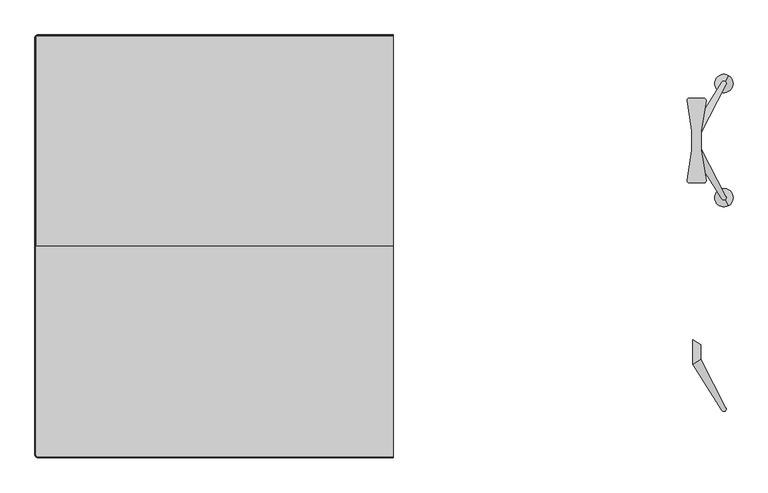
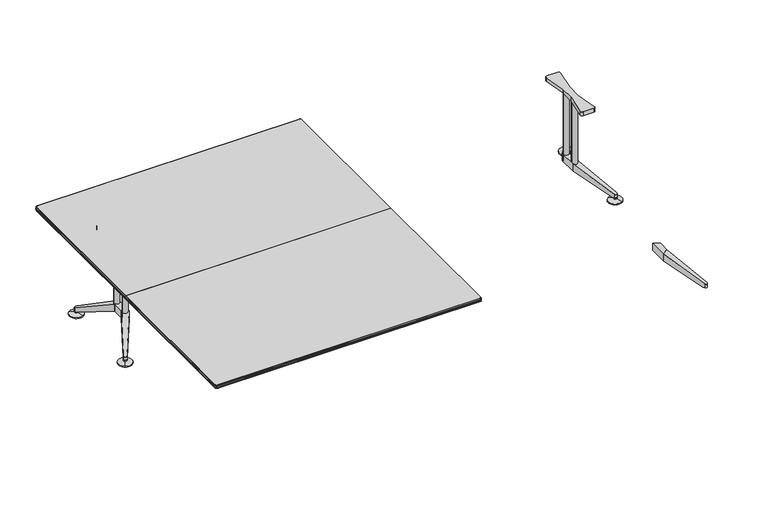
"""IFC4 building model written with IfcOpenShell, lengths in millimetres: furniture geometry, Furniture_Wilkhahn_620-46_Logon Table-Rectangle : Logon 620/46_3900L x 2300W x 730H."""

from ifc_helpers import new_model, si_unit, point, frame, frame_2d, origin, place, context, project, spatial, polyline, circle_curve, ellipse_curve, trimmed, segment, composite_curve, outline, extrude, source, transform, mapped, element, save
from ifc_brep_helpers import plane_surface, cylinder_surface, revolved_surface, advanced_brep


def furniture_e8c99cdd(model_context):
    return source(origin(), model_context, "Body", "SolidModel", [
        advanced_brep(
        [(0.0, -1120.2688717, 730.0), (0.0, -1121.7520946, 728.7237185), (0.0, -1122.5502006, 720.5693751), (0.0, -1122.5502006, 713.4306041), (0.0, -1121.7520946, 705.2762608), (0.0, -1120.2688717, 703.9999792), (0.0, 25.9511544, 703.9999792), (0.0, 25.9511544, 730.0), (-1946.2200262, 25.9511544, 703.9999792), (-1947.703249, 25.9511544, 705.2762608), (-1948.5013551, 25.9511544, 713.4306041), (-1948.5013551, 25.9511544, 720.5693751), (-1947.703249, 25.9511544, 728.7237185), (-1946.2200262, 25.9511544, 730.0), (-1935.0, -1120.2688717, 703.9999792), (-1946.2200262, -1109.0488456, 703.9999792), (-1935.0, -1122.5502006, 720.5693751), (-1935.0, -1122.5502006, 713.4306041), (-1946.2200262, -1109.0488456, 730.0), (-1935.0, -1120.2688717, 730.0), (-1948.5013551, -1109.0488456, 720.5693751), (-1948.5013551, -1109.0488456, 713.4306041), (-1935.0, -1121.7520946, 705.2762608), (-1935.0, -1121.7520946, 728.7237185), (-1947.703249, -1109.0488456, 705.2762608), (-1947.703249, -1109.0488456, 728.7237185)],
        [
            (0, 1, circle_curve(frame((0.0, -1120.2688717, 728.5), z_axis=(1.0, 0.0, 0.0), x_axis=(0.0, -1.0, 0.0)), 1.5)),
            (1, 2, circle_curve(frame((0.0, -1044.025371, 716.9999896), z_axis=(1.0, 0.0, 0.0), x_axis=(0.0, -1.0, 0.0)), 78.6059119)),
            (2, 3, circle_curve(frame((0.0, -1119.0488456, 716.9999896), z_axis=(1.0, 0.0, 0.0), x_axis=(0.0, -1.0, 0.0)), 5.0)),
            (3, 4, circle_curve(frame((0.0, -1044.025371, 716.9999896), z_axis=(1.0, 0.0, 0.0), x_axis=(0.0, -1.0, 0.0)), 78.6059119)),
            (4, 5, circle_curve(frame((0.0, -1120.2688717, 705.4999792), z_axis=(1.0, 0.0, 0.0), x_axis=(0.0, -1.0, 0.0)), 1.5)),
            (5, 6),
            (6, 7),
            (7, 0),
            (8, 9, circle_curve(frame((-1946.2200262, 25.9511544, 705.4999792), z_axis=(0.0, 1.0, 0.0), x_axis=(-1.0, 0.0, 0.0)), 1.5)),
            (9, 10, circle_curve(frame((-1869.9765254, 25.9511544, 716.9999896), z_axis=(0.0, 1.0, 0.0), x_axis=(-1.0, 0.0, 0.0)), 78.6059119)),
            (10, 11, circle_curve(frame((-1945.0, 25.9511544, 716.9999896), z_axis=(0.0, 1.0, 0.0), x_axis=(-1.0, 0.0, 0.0)), 5.0)),
            (11, 12, circle_curve(frame((-1869.9765254, 25.9511544, 716.9999896), z_axis=(0.0, 1.0, 0.0), x_axis=(-1.0, 0.0, 0.0)), 78.6059119)),
            (12, 13, circle_curve(frame((-1946.2200262, 25.9511544, 728.5), z_axis=(0.0, 1.0, 0.0), x_axis=(-1.0, 0.0, 0.0)), 1.5)),
            (13, 7),
            (6, 8),
            (5, 14),
            (14, 15, circle_curve(frame((-1935.0, -1109.0488456, 703.9999792), z_axis=(0.0, 0.0, -1.0), x_axis=(0.0, -1.0, 0.0)), 11.2200262)),
            (15, 8),
            (2, 16),
            (16, 17, circle_curve(frame((-1935.0, -1119.0488456, 716.9999896), z_axis=(1.0, 0.0, 0.0), x_axis=(0.0, -1.0, 0.0)), 5.0)),
            (17, 3),
            (13, 18),
            (18, 19, circle_curve(frame((-1935.0, -1109.0488456, 730.0), z_axis=(0.0, 0.0, 1.0), x_axis=(0.0, -1.0, 0.0)), 11.2200262)),
            (19, 0),
            (16, 20, circle_curve(frame((-1935.0, -1109.0488456, 720.5693751), z_axis=(0.0, 0.0, -1.0), x_axis=(0.0, -1.0, 0.0)), 13.5013551)),
            (20, 21, circle_curve(frame((-1945.0, -1109.0488456, 716.9999896), z_axis=(0.0, -1.0, 0.0), x_axis=(-1.0, 0.0, 0.0)), 5.0)),
            (21, 17, circle_curve(frame((-1935.0, -1109.0488456, 713.4306041), z_axis=(0.0, 0.0, 1.0), x_axis=(0.0, -1.0, 0.0)), 13.5013551)),
            (10, 21),
            (20, 11),
            (4, 22),
            (22, 14, circle_curve(frame((-1935.0, -1120.2688717, 705.4999792), z_axis=(1.0, 0.0, 0.0), x_axis=(0.0, -1.0, 0.0)), 1.5)),
            (17, 22, circle_curve(frame((-1935.0, -1044.025371, 716.9999896), z_axis=(1.0, 0.0, 0.0), x_axis=(0.0, -1.0, 0.0)), 78.6059119)),
            (1, 23),
            (23, 16, circle_curve(frame((-1935.0, -1044.025371, 716.9999896), z_axis=(1.0, 0.0, 0.0), x_axis=(0.0, -1.0, 0.0)), 78.6059119)),
            (19, 23, circle_curve(frame((-1935.0, -1120.2688717, 728.5), z_axis=(1.0, 0.0, 0.0), x_axis=(0.0, -1.0, 0.0)), 1.5)),
            (22, 24, circle_curve(frame((-1935.0, -1109.0488456, 705.2762608), z_axis=(0.0, 0.0, -1.0), x_axis=(0.0, -1.0, 0.0)), 12.703249)),
            (24, 15, circle_curve(frame((-1946.2200262, -1109.0488456, 705.4999792), z_axis=(0.0, -1.0, 0.0), x_axis=(-1.0, 0.0, 0.0)), 1.5)),
            (21, 24, circle_curve(frame((-1869.9765254, -1109.0488456, 716.9999896), z_axis=(0.0, -1.0, 0.0), x_axis=(-1.0, 0.0, 0.0)), 78.6059119)),
            (23, 25, circle_curve(frame((-1935.0, -1109.0488456, 728.7237185), z_axis=(0.0, 0.0, -1.0), x_axis=(0.0, -1.0, 0.0)), 12.703249)),
            (25, 20, circle_curve(frame((-1869.9765254, -1109.0488456, 716.9999896), z_axis=(0.0, -1.0, 0.0), x_axis=(-1.0, 0.0, 0.0)), 78.6059119)),
            (18, 25, circle_curve(frame((-1946.2200262, -1109.0488456, 728.5), z_axis=(0.0, -1.0, 0.0), x_axis=(-1.0, 0.0, 0.0)), 1.5)),
            (24, 9),
            (25, 12),
        ],
        [
            plane_surface(frame((0.0, -1124.0488456, 730.0), z_axis=(1.0, 0.0, 0.0), x_axis=(0.0, 0.0, 1.0))),
            plane_surface(frame((-1950.0, 25.9511544, 730.0), z_axis=(0.0, 1.0, 0.0), x_axis=(0.0, 0.0, 1.0))),
            plane_surface(frame((0.0, -1120.2688717, 703.9999792), z_axis=(0.0, 0.0, -1.0), x_axis=(-1.0, 0.0, 0.0))),
            cylinder_surface(frame((0.0, -1119.0488456, 716.9999896), z_axis=(1.0, 0.0, 0.0), x_axis=(0.0, -1.0, 0.0)), 5.0),
            plane_surface(frame((0.0, -1119.0488456, 730.0), z_axis=(0.0, 0.0, 1.0), x_axis=(-1.0, 0.0, 0.0))),
            revolved_surface(trimmed(ellipse_curve(frame((-1935.0, -1119.0488456, 716.9999896), z_axis=(1.0, 0.0, 0.0), x_axis=(0.0, -1.0, 0.0)), 5.0, 5.0), [point((-1935.0, -1122.5502006, 720.5693751))], [point((-1935.0, -1122.5502006, 713.4306041))], True, "CARTESIAN"), (-1935.0, -1109.0488456, 730.0), (0.0, 0.0, -1.0)),
            cylinder_surface(frame((-1945.0, -1109.0488456, 716.9999896), z_axis=(0.0, -1.0, 0.0), x_axis=(-1.0, 0.0, 0.0)), 5.0),
            cylinder_surface(frame((0.0, -1120.2688717, 705.4999792), z_axis=(1.0, 0.0, 0.0), x_axis=(0.0, -1.0, 0.0)), 1.5),
            cylinder_surface(frame((0.0, -1044.025371, 716.9999896), z_axis=(1.0, 0.0, 0.0), x_axis=(0.0, -1.0, 0.0)), 78.6059119),
            cylinder_surface(frame((0.0, -1120.2688717, 728.5), z_axis=(1.0, 0.0, 0.0), x_axis=(0.0, -1.0, 0.0)), 1.5),
            revolved_surface(trimmed(ellipse_curve(frame((-1935.0, -1120.2688717, 705.4999792), z_axis=(1.0, 0.0, 0.0), x_axis=(0.0, -1.0, 0.0)), 1.5, 1.5), [point((-1935.0, -1121.7520946, 705.2762608))], [point((-1935.0, -1120.2688717, 703.9999792))], True, "CARTESIAN"), (-1935.0, -1109.0488456, 730.0), (0.0, 0.0, -1.0)),
            revolved_surface(trimmed(ellipse_curve(frame((-1935.0, -1044.025371, 716.9999896), z_axis=(1.0, 0.0, 0.0), x_axis=(0.0, -1.0, 0.0)), 78.6059119, 78.6059119), [point((-1935.0, -1122.5502006, 713.4306041))], [point((-1935.0, -1121.7520946, 705.2762608))], True, "CARTESIAN"), (-1935.0, -1109.0488456, 730.0), (0.0, 0.0, -1.0)),
            revolved_surface(trimmed(ellipse_curve(frame((-1935.0, -1044.025371, 716.9999896), z_axis=(1.0, 0.0, 0.0), x_axis=(0.0, -1.0, 0.0)), 78.6059119, 78.6059119), [point((-1935.0, -1121.7520946, 728.7237185))], [point((-1935.0, -1122.5502006, 720.5693751))], True, "CARTESIAN"), (-1935.0, -1109.0488456, 730.0), (0.0, 0.0, -1.0)),
            revolved_surface(trimmed(ellipse_curve(frame((-1935.0, -1120.2688717, 728.5), z_axis=(1.0, 0.0, 0.0), x_axis=(0.0, -1.0, 0.0)), 1.5, 1.5), [point((-1935.0, -1120.2688717, 730.0))], [point((-1935.0, -1121.7520946, 728.7237185))], True, "CARTESIAN"), (-1935.0, -1109.0488456, 730.0), (0.0, 0.0, -1.0)),
            cylinder_surface(frame((-1946.2200262, -1109.0488456, 705.4999792), z_axis=(0.0, -1.0, 0.0), x_axis=(-1.0, 0.0, 0.0)), 1.5),
            cylinder_surface(frame((-1869.9765254, -1109.0488456, 716.9999896), z_axis=(0.0, -1.0, 0.0), x_axis=(-1.0, 0.0, 0.0)), 78.6059119),
            cylinder_surface(frame((-1946.2200262, -1109.0488456, 728.5), z_axis=(0.0, -1.0, 0.0), x_axis=(-1.0, 0.0, 0.0)), 1.5),
        ],
        [
            (0, [[1, 2, 3, 4, 5, 6, 7, 8]]),
            (1, [[9, 10, 11, 12, 13, 14, -7, 15]]),
            (2, [[-15, -6, 16, 17, 18]]),
            (3, [[-3, 19, 20, 21]]),
            (4, [[-8, -14, 22, 23, 24]]),
            (5, [[-20, 25, 26, 27]]),
            (6, [[-11, 28, -26, 29]]),
            (7, [[-5, 30, 31, -16]]),
            (8, [[-4, -21, 32, -30]]),
            (8, [[-2, 33, 34, -19]]),
            (9, [[-1, -24, 35, -33]]),
            (10, [[-17, -31, 36, 37]]),
            (11, [[-27, 38, -36, -32]]),
            (12, [[-25, -34, 39, 40]]),
            (13, [[-23, 41, -39, -35]]),
            (14, [[-9, -18, -37, 42]]),
            (15, [[-10, -42, -38, -28]]),
            (15, [[-12, -29, -40, 43]]),
            (16, [[-13, -43, -41, -22]]),
        ],
    ),
        advanced_brep(
        [(0.0, 1174.4525095, 720.5693751), (0.0, 1174.4525095, 713.4306041), (-1935.0, 1174.4525095, 713.4306041), (-1935.0, 1174.4525095, 720.5693751), (-1948.5013551, 1160.9511544, 713.4306041), (-1948.5013551, 1160.9511544, 720.5693751), (-1948.5013551, 25.9511544, 713.4306041), (-1948.5013551, 25.9511544, 720.5693751), (0.0, 1173.6544035, 705.2762608), (0.0, 1172.1711806, 703.9999792), (-1935.0, 1172.1711806, 703.9999792), (-1935.0, 1173.6544035, 705.2762608), (0.0, 1173.6544035, 728.7237185), (-1935.0, 1173.6544035, 728.7237185), (0.0, 1172.1711806, 730.0), (-1935.0, 1172.1711806, 730.0), (-1946.2200262, 1160.9511544, 703.9999792), (-1947.703249, 1160.9511544, 705.2762608), (-1947.703249, 1160.9511544, 728.7237185), (-1946.2200262, 1160.9511544, 730.0), (-1946.2200262, 25.9511544, 703.9999792), (-1947.703249, 25.9511544, 705.2762608), (-1947.703249, 25.9511544, 728.7237185), (-1946.2200262, 25.9511544, 730.0), (0.0, 25.9511544, 730.0), (0.0, 25.9511544, 703.9999792)],
        [
            (0, 1, circle_curve(frame((0.0, 1170.9511544, 716.9999896), z_axis=(-1.0, 0.0, 0.0), x_axis=(0.0, -1.0, 0.0)), 5.0)),
            (1, 2),
            (2, 3, circle_curve(frame((-1935.0, 1170.9511544, 716.9999896), z_axis=(1.0, 0.0, 0.0), x_axis=(0.0, -1.0, 0.0)), 5.0)),
            (3, 0),
            (2, 4, circle_curve(frame((-1935.0, 1160.9511544, 713.4306041), z_axis=(0.0, 0.0, 1.0), x_axis=(0.0, 1.0, 0.0)), 13.5013551)),
            (4, 5, circle_curve(frame((-1945.0, 1160.9511544, 716.9999896), z_axis=(0.0, 1.0, 0.0), x_axis=(1.0, 0.0, 0.0)), 5.0)),
            (5, 3, circle_curve(frame((-1935.0, 1160.9511544, 720.5693751), z_axis=(0.0, 0.0, -1.0), x_axis=(0.0, 1.0, 0.0)), 13.5013551)),
            (6, 7, circle_curve(frame((-1945.0, 25.9511544, 716.9999896), z_axis=(0.0, 1.0, 0.0), x_axis=(1.0, 0.0, 0.0)), 5.0)),
            (7, 5),
            (4, 6),
            (8, 9, circle_curve(frame((0.0, 1172.1711806, 705.4999792), z_axis=(-1.0, 0.0, 0.0), x_axis=(0.0, -1.0, 0.0)), 1.5)),
            (9, 10),
            (10, 11, circle_curve(frame((-1935.0, 1172.1711806, 705.4999792), z_axis=(1.0, 0.0, 0.0), x_axis=(0.0, -1.0, 0.0)), 1.5)),
            (11, 8),
            (1, 8, circle_curve(frame((0.0, 1095.9276799, 716.9999896), z_axis=(-1.0, 0.0, 0.0), x_axis=(0.0, -1.0, 0.0)), 78.6059119)),
            (11, 2, circle_curve(frame((-1935.0, 1095.9276799, 716.9999896), z_axis=(1.0, 0.0, 0.0), x_axis=(0.0, -1.0, 0.0)), 78.6059119)),
            (12, 0, circle_curve(frame((0.0, 1095.9276799, 716.9999896), z_axis=(-1.0, 0.0, 0.0), x_axis=(0.0, -1.0, 0.0)), 78.6059119)),
            (3, 13, circle_curve(frame((-1935.0, 1095.9276799, 716.9999896), z_axis=(1.0, 0.0, 0.0), x_axis=(0.0, -1.0, 0.0)), 78.6059119)),
            (13, 12),
            (14, 12, circle_curve(frame((0.0, 1172.1711806, 728.5), z_axis=(-1.0, 0.0, 0.0), x_axis=(0.0, -1.0, 0.0)), 1.5)),
            (13, 15, circle_curve(frame((-1935.0, 1172.1711806, 728.5), z_axis=(1.0, 0.0, 0.0), x_axis=(0.0, -1.0, 0.0)), 1.5)),
            (15, 14),
            (10, 16, circle_curve(frame((-1935.0, 1160.9511544, 703.9999792), z_axis=(0.0, 0.0, 1.0), x_axis=(0.0, 1.0, 0.0)), 11.2200262)),
            (16, 17, circle_curve(frame((-1946.2200262, 1160.9511544, 705.4999792), z_axis=(0.0, 1.0, 0.0), x_axis=(1.0, 0.0, 0.0)), 1.5)),
            (17, 11, circle_curve(frame((-1935.0, 1160.9511544, 705.2762608), z_axis=(0.0, 0.0, -1.0), x_axis=(0.0, 1.0, 0.0)), 12.703249)),
            (17, 4, circle_curve(frame((-1869.9765254, 1160.9511544, 716.9999896), z_axis=(0.0, 1.0, 0.0), x_axis=(1.0, 0.0, 0.0)), 78.6059119)),
            (5, 18, circle_curve(frame((-1869.9765254, 1160.9511544, 716.9999896), z_axis=(0.0, 1.0, 0.0), x_axis=(1.0, 0.0, 0.0)), 78.6059119)),
            (18, 13, circle_curve(frame((-1935.0, 1160.9511544, 728.7237185), z_axis=(0.0, 0.0, -1.0), x_axis=(0.0, 1.0, 0.0)), 12.703249)),
            (19, 15, circle_curve(frame((-1935.0, 1160.9511544, 730.0), z_axis=(0.0, 0.0, -1.0), x_axis=(0.0, 1.0, 0.0)), 11.2200262)),
            (18, 19, circle_curve(frame((-1946.2200262, 1160.9511544, 728.5), z_axis=(0.0, 1.0, 0.0), x_axis=(1.0, 0.0, 0.0)), 1.5)),
            (20, 21, circle_curve(frame((-1946.2200262, 25.9511544, 705.4999792), z_axis=(0.0, 1.0, 0.0), x_axis=(1.0, 0.0, 0.0)), 1.5)),
            (21, 17),
            (16, 20),
            (21, 6, circle_curve(frame((-1869.9765254, 25.9511544, 716.9999896), z_axis=(0.0, 1.0, 0.0), x_axis=(1.0, 0.0, 0.0)), 78.6059119)),
            (7, 22, circle_curve(frame((-1869.9765254, 25.9511544, 716.9999896), z_axis=(0.0, 1.0, 0.0), x_axis=(1.0, 0.0, 0.0)), 78.6059119)),
            (22, 18),
            (22, 23, circle_curve(frame((-1946.2200262, 25.9511544, 728.5), z_axis=(0.0, 1.0, 0.0), x_axis=(1.0, 0.0, 0.0)), 1.5)),
            (23, 19),
            (14, 24),
            (24, 25),
            (25, 9),
            (25, 20),
            (23, 24),
        ],
        [
            cylinder_surface(frame((0.0, 1170.9511544, 716.9999896), z_axis=(1.0, 0.0, 0.0), x_axis=(0.0, -1.0, 0.0)), 5.0),
            revolved_surface(trimmed(ellipse_curve(frame((-1935.0, 1170.9511544, 716.9999896), z_axis=(1.0, 0.0, 0.0), x_axis=(0.0, -1.0, 0.0)), 5.0, 5.0), [point((-1935.0, 1174.4525095, 713.4306041))], [point((-1935.0, 1174.4525095, 720.5693751))], True, "CARTESIAN"), (-1935.0, 1160.9511544, 730.0), (0.0, 0.0, 1.0)),
            cylinder_surface(frame((-1945.0, 1160.9511544, 716.9999896), z_axis=(0.0, 1.0, 0.0), x_axis=(1.0, 0.0, 0.0)), 5.0),
            cylinder_surface(frame((0.0, 1172.1711806, 705.4999792), z_axis=(1.0, 0.0, 0.0), x_axis=(0.0, -1.0, 0.0)), 1.5),
            cylinder_surface(frame((0.0, 1095.9276799, 716.9999896), z_axis=(1.0, 0.0, 0.0), x_axis=(0.0, -1.0, 0.0)), 78.6059119),
            cylinder_surface(frame((0.0, 1172.1711806, 728.5), z_axis=(1.0, 0.0, 0.0), x_axis=(0.0, -1.0, 0.0)), 1.5),
            revolved_surface(trimmed(ellipse_curve(frame((-1935.0, 1172.1711806, 705.4999792), z_axis=(1.0, 0.0, 0.0), x_axis=(0.0, -1.0, 0.0)), 1.5, 1.5), [point((-1935.0, 1172.1711806, 703.9999792))], [point((-1935.0, 1173.6544035, 705.2762608))], True, "CARTESIAN"), (-1935.0, 1160.9511544, 730.0), (0.0, 0.0, 1.0)),
            revolved_surface(trimmed(ellipse_curve(frame((-1935.0, 1095.9276799, 716.9999896), z_axis=(1.0, 0.0, 0.0), x_axis=(0.0, -1.0, 0.0)), 78.6059119, 78.6059119), [point((-1935.0, 1173.6544035, 705.2762608))], [point((-1935.0, 1174.4525095, 713.4306041))], True, "CARTESIAN"), (-1935.0, 1160.9511544, 730.0), (0.0, 0.0, 1.0)),
            revolved_surface(trimmed(ellipse_curve(frame((-1935.0, 1095.9276799, 716.9999896), z_axis=(1.0, 0.0, 0.0), x_axis=(0.0, -1.0, 0.0)), 78.6059119, 78.6059119), [point((-1935.0, 1174.4525095, 720.5693751))], [point((-1935.0, 1173.6544035, 728.7237185))], True, "CARTESIAN"), (-1935.0, 1160.9511544, 730.0), (0.0, 0.0, 1.0)),
            revolved_surface(trimmed(ellipse_curve(frame((-1935.0, 1172.1711806, 728.5), z_axis=(1.0, 0.0, 0.0), x_axis=(0.0, -1.0, 0.0)), 1.5, 1.5), [point((-1935.0, 1173.6544035, 728.7237185))], [point((-1935.0, 1172.1711806, 730.0))], True, "CARTESIAN"), (-1935.0, 1160.9511544, 730.0), (0.0, 0.0, 1.0)),
            cylinder_surface(frame((-1946.2200262, 1160.9511544, 705.4999792), z_axis=(0.0, 1.0, 0.0), x_axis=(1.0, 0.0, 0.0)), 1.5),
            cylinder_surface(frame((-1869.9765254, 1160.9511544, 716.9999896), z_axis=(0.0, 1.0, 0.0), x_axis=(1.0, 0.0, 0.0)), 78.6059119),
            cylinder_surface(frame((-1946.2200262, 1160.9511544, 728.5), z_axis=(0.0, 1.0, 0.0), x_axis=(1.0, 0.0, 0.0)), 1.5),
            plane_surface(frame((0.0, 1175.9511544, 730.0), z_axis=(1.0, 0.0, 0.0), x_axis=(0.0, 0.0, 1.0))),
            plane_surface(frame((0.0, 1170.9511544, 703.9999792), z_axis=(0.0, 0.0, -1.0), x_axis=(-1.0, 0.0, 0.0))),
            plane_surface(frame((0.0, 1172.1711806, 730.0), z_axis=(0.0, 0.0, 1.0), x_axis=(-1.0, 0.0, 0.0))),
            plane_surface(frame((-1950.0, 25.9511544, 730.0), z_axis=(0.0, -1.0, 0.0), x_axis=(0.0, 0.0, 1.0))),
        ],
        [
            (0, [[1, 2, 3, 4]]),
            (1, [[-3, 5, 6, 7]]),
            (2, [[8, 9, -6, 10]]),
            (3, [[11, 12, 13, 14]]),
            (4, [[15, -14, 16, -2]]),
            (4, [[17, -4, 18, 19]]),
            (5, [[20, -19, 21, 22]]),
            (6, [[23, 24, 25, -13]]),
            (7, [[-5, -16, -25, 26]]),
            (8, [[-7, 27, 28, -18]]),
            (9, [[29, -21, -28, 30]]),
            (10, [[31, 32, -24, 33]]),
            (11, [[34, -10, -26, -32]]),
            (11, [[35, 36, -27, -9]]),
            (12, [[37, 38, -30, -36]]),
            (13, [[-11, -15, -1, -17, -20, 39, 40, 41]]),
            (14, [[-41, 42, -33, -23, -12]]),
            (15, [[43, -39, -22, -29, -38]]),
            (16, [[-37, -35, -8, -34, -31, -42, -40, -43]]),
        ],
    ),
        extrude(outline(polyline([(1671.6506351, 641.4511544), (1671.6506351, 560.4511544), (1628.3493649, 535.4511544), (1628.3493649, 666.4511544), (1671.6506351, 641.4511544)])), frame((0.0, 0.0, 140.0), z_axis=(0.0, 0.0, 1.0), x_axis=(1.0, 0.0, 0.0)), (0.0, 0.0, 1.0), 55.0),
        advanced_brep(
        [(1628.3493649, 666.4511544, 195.0), (1671.6506351, 641.4511544, 195.0), (1809.8189769, 905.8365053, 56.1717347), (1805.0, 922.4190296, 50.6048844), (1788.2296242, 918.3011239, 56.1717347), (1803.7925387, 894.3049058, 27.0), (1781.2561852, 907.3162756, 27.0), (1788.2296242, 918.3011239, 27.0), (1805.0, 922.4190296, 27.0), (1809.8189769, 905.8365053, 27.0), (1671.6506351, 641.4511544, 140.0), (1628.3493649, 666.4511544, 140.0)],
        [
            (0, 1),
            (1, 2),
            (2, 3, ellipse_curve(frame((1798.762181, 911.6148102, 56.4159205), z_axis=(0.21111665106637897, 0.36566476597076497, 0.9064871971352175), x_axis=(0.4532435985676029, 0.7850409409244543, -0.42223330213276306)), 13.7626191, 12.475638)),
            (3, 4, ellipse_curve(frame((1798.762181, 911.6148102, 56.4159205), z_axis=(0.21111665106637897, 0.36566476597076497, 0.9064871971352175), x_axis=(0.4532435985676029, 0.7850409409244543, -0.42223330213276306)), 13.7626191, 12.475638)),
            (4, 0),
            (5, 6),
            (6, 7),
            (7, 8, circle_curve(frame((1798.762181, 911.6148102, 27.0), z_axis=(0.0, 0.0, -1.0), x_axis=(0.8660254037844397, -0.4999999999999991, 0.0)), 12.475638)),
            (8, 9, circle_curve(frame((1798.762181, 911.6148102, 27.0), z_axis=(0.0, 0.0, -1.0), x_axis=(0.8660254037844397, -0.4999999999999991, 0.0)), 12.475638)),
            (9, 5),
            (10, 11),
            (11, 6),
            (5, 10),
            (0, 11),
            (10, 1),
            (9, 2),
            (4, 7),
        ],
        [
            plane_surface(frame((1826.6506351, 909.9190296, 50.6048844), z_axis=(0.21111665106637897, 0.36566476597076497, 0.9064871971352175), x_axis=(-0.8660254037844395, 0.49999999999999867, 0.0))),
            plane_surface(frame((1814.1749971, 888.3105907, 27.0), z_axis=(0.0, 0.0, -1.0), x_axis=(-0.8660254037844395, 0.49999999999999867, 0.0))),
            plane_surface(frame((1671.6506351, 641.4511544, 140.0), z_axis=(-0.18426133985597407, -0.3191500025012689, -0.9296187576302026), x_axis=(-0.866025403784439, 0.4999999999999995, 0.0))),
            plane_surface(frame((1671.6506351, 641.4511544, 195.0), z_axis=(-0.4999999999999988, -0.8660254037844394, 0.0), x_axis=(-0.8660254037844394, 0.4999999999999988, 0.0))),
            plane_surface(frame((1809.8189769, 905.8365053, 195.0), z_axis=(0.8862709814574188, -0.4631670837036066, 0.0), x_axis=(0.0, 0.0, -1.0))),
            plane_surface(frame((1628.3493649, 666.4511544, 195.0), z_axis=(-0.8442499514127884, 0.5359496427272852, 0.0), x_axis=(0.0, 0.0, -1.0))),
            cylinder_surface(frame((1798.762181, 911.6148102, 0.0), z_axis=(0.0, 0.0, -1.0), x_axis=(0.8660254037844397, -0.4999999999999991, 0.0)), 12.475638),
        ],
        [
            (0, [[1, 2, 3, 4, 5]]),
            (1, [[6, 7, 8, 9, 10]]),
            (2, [[11, 12, -6, 13]]),
            (3, [[-1, 14, -11, 15]]),
            (4, [[16, -2, -15, -13, -10]]),
            (5, [[17, -7, -12, -14, -5]]),
            (6, [[-16, -9, -8, -17, -4, -3]]),
        ],
    ),
        advanced_brep(
        [(1798.762181, 290.2874987, 0.0), (1823.762181, 246.9862285, 0.0), (1773.762181, 333.5887689, 0.0), (1823.762181, 246.9862285, 6.0), (1773.762181, 333.5887689, 6.0), (1805.0, 279.4832793, 17.0), (1792.524362, 301.0917181, 17.0), (1805.0, 279.4832793, 27.0), (1792.524362, 301.0917181, 27.0), (1798.762181, 290.2874987, 27.0)],
        [
            (0, 1),
            (1, 2, circle_curve(frame((1798.762181, 290.2874987, 0.0), z_axis=(0.0, 0.0, -1.0), x_axis=(0.49999999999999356, -0.8660254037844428, 0.0)), 50.0)),
            (2, 0),
            (2, 1, circle_curve(frame((1798.762181, 290.2874987, 0.0), z_axis=(0.0, 0.0, -1.0), x_axis=(0.49999999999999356, -0.8660254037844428, 0.0)), 50.0)),
            (1, 3),
            (3, 4, circle_curve(frame((1798.762181, 290.2874987, 6.0), z_axis=(0.0, 0.0, -1.0), x_axis=(0.49999999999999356, -0.8660254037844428, 0.0)), 50.0)),
            (4, 2),
            (4, 3, circle_curve(frame((1798.762181, 290.2874987, 6.0), z_axis=(0.0, 0.0, -1.0), x_axis=(0.49999999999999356, -0.8660254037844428, 0.0)), 50.0)),
            (3, 5),
            (5, 6, circle_curve(frame((1798.762181, 290.2874987, 17.0), z_axis=(0.0, 0.0, -1.0), x_axis=(0.49999999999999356, -0.8660254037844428, 0.0)), 12.475638)),
            (6, 4),
            (6, 5, circle_curve(frame((1798.762181, 290.2874987, 17.0), z_axis=(0.0, 0.0, -1.0), x_axis=(0.49999999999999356, -0.8660254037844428, 0.0)), 12.475638)),
            (5, 7),
            (7, 8, circle_curve(frame((1798.762181, 290.2874987, 27.0), z_axis=(0.0, 0.0, -1.0), x_axis=(0.49999999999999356, -0.8660254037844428, 0.0)), 12.475638)),
            (8, 6),
            (8, 7, circle_curve(frame((1798.762181, 290.2874987, 27.0), z_axis=(0.0, 0.0, -1.0), x_axis=(0.49999999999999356, -0.8660254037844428, 0.0)), 12.475638)),
            (7, 9),
            (9, 8),
        ],
        [
            plane_surface(frame((1798.762181, 290.2874987, 0.0), z_axis=(0.0, 0.0, -1.0), x_axis=(0.49999999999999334, -0.8660254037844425, 0.0))),
            cylinder_surface(frame((1798.762181, 290.2874987, 27.0), z_axis=(0.0, 0.0, -1.0), x_axis=(0.49999999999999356, -0.8660254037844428, 0.0)), 50.0),
            revolved_surface(polyline([(1805.0, 279.4832793, 17.0), (1823.762181, 246.9862285, 6.0)]), (1798.762181, 290.2874987, 27.0), (0.0, 0.0, -1.0)),
            cylinder_surface(frame((1798.762181, 290.2874987, 27.0), z_axis=(0.0, 0.0, -1.0), x_axis=(0.49999999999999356, -0.8660254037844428, 0.0)), 12.475638),
            plane_surface(frame((1798.762181, 290.2874987, 27.0), z_axis=(0.0, 0.0, 1.0), x_axis=(0.49999999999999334, -0.8660254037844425, 0.0))),
        ],
        [
            (0, [[1, 2, 3]]),
            (0, [[-3, 4, -1]]),
            (1, [[-2, 5, 6, 7]]),
            (1, [[-4, -7, 8, -5]]),
            (2, [[-6, 9, 10, 11]]),
            (2, [[-8, -11, 12, -9]]),
            (3, [[-10, 13, 14, 15]]),
            (3, [[-12, -15, 16, -13]]),
            (4, [[-14, 17, 18]]),
            (4, [[-16, -18, -17]]),
        ],
    ),
        advanced_brep(
        [(1773.762181, 868.31354, 0.0), (1823.762181, 954.9160804, 0.0), (1798.762181, 911.6148102, 0.0), (1773.762181, 868.31354, 6.0), (1823.762181, 954.9160804, 6.0), (1792.524362, 900.8105907, 17.0), (1805.0, 922.4190296, 17.0), (1792.524362, 900.8105907, 27.0), (1805.0, 922.4190296, 27.0), (1798.762181, 911.6148102, 27.0)],
        [
            (0, 1, circle_curve(frame((1798.762181, 911.6148102, 0.0), z_axis=(0.0, 0.0, -1.0), x_axis=(0.4999999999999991, 0.8660254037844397, 0.0)), 50.0)),
            (1, 2),
            (2, 0),
            (1, 0, circle_curve(frame((1798.762181, 911.6148102, 0.0), z_axis=(0.0, 0.0, -1.0), x_axis=(0.4999999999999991, 0.8660254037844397, 0.0)), 50.0)),
            (3, 4, circle_curve(frame((1798.762181, 911.6148102, 6.0), z_axis=(0.0, 0.0, -1.0), x_axis=(0.4999999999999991, 0.8660254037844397, 0.0)), 50.0)),
            (4, 1),
            (0, 3),
            (4, 3, circle_curve(frame((1798.762181, 911.6148102, 6.0), z_axis=(0.0, 0.0, -1.0), x_axis=(0.4999999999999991, 0.8660254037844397, 0.0)), 50.0)),
            (5, 6, circle_curve(frame((1798.762181, 911.6148102, 17.0), z_axis=(0.0, 0.0, -1.0), x_axis=(0.4999999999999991, 0.8660254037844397, 0.0)), 12.475638)),
            (6, 4),
            (3, 5),
            (6, 5, circle_curve(frame((1798.762181, 911.6148102, 17.0), z_axis=(0.0, 0.0, -1.0), x_axis=(0.4999999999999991, 0.8660254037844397, 0.0)), 12.475638)),
            (7, 8, circle_curve(frame((1798.762181, 911.6148102, 27.0), z_axis=(0.0, 0.0, -1.0), x_axis=(0.4999999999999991, 0.8660254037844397, 0.0)), 12.475638)),
            (8, 6),
            (5, 7),
            (8, 7, circle_curve(frame((1798.762181, 911.6148102, 27.0), z_axis=(0.0, 0.0, -1.0), x_axis=(0.4999999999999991, 0.8660254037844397, 0.0)), 12.475638)),
            (9, 8),
            (7, 9),
        ],
        [
            plane_surface(frame((1798.762181, 911.6148102, 0.0), z_axis=(0.0, 0.0, -1.0), x_axis=(0.4999999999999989, 0.8660254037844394, 0.0))),
            cylinder_surface(frame((1798.762181, 911.6148102, 27.0), z_axis=(0.0, 0.0, 1.0), x_axis=(0.4999999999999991, 0.8660254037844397, 0.0)), 50.0),
            revolved_surface(polyline([(1823.762181, 954.9160804, 6.0), (1805.0, 922.4190296, 17.0)]), (1798.762181, 911.6148102, 27.0), (0.0, 0.0, 1.0)),
            cylinder_surface(frame((1798.762181, 911.6148102, 27.0), z_axis=(0.0, 0.0, 1.0), x_axis=(0.4999999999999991, 0.8660254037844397, 0.0)), 12.475638),
            plane_surface(frame((1798.762181, 911.6148102, 27.0), z_axis=(0.0, 0.0, 1.0), x_axis=(0.4999999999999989, 0.8660254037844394, 0.0))),
        ],
        [
            (0, [[1, 2, 3]]),
            (0, [[4, -3, -2]]),
            (1, [[5, 6, -1, 7]]),
            (1, [[8, -7, -4, -6]]),
            (2, [[9, 10, -5, 11]]),
            (2, [[12, -11, -8, -10]]),
            (3, [[13, 14, -9, 15]]),
            (3, [[16, -15, -12, -14]]),
            (4, [[17, -13, 18]]),
            (4, [[-18, -16, -17]]),
        ],
    ),
        extrude(outline(composite_curve([segment(polyline([(1675.0, 547.9511544), (1701.7160071, 384.8913867)]), True, "CONTINUOUS"), segment(trimmed(circle_curve(frame_2d((1689.8739001, 382.9511544)), 12.0), [point((1701.7160071, 384.8913867))], [point((1689.8739001, 370.9511544))], False, "CARTESIAN"), True, "CONTINUOUS"), segment(polyline([(1689.8739001, 370.9511544), (1610.1260999, 370.9511544)]), True, "CONTINUOUS"), segment(trimmed(circle_curve(frame_2d((1610.1260999, 382.9511544)), 12.0), [point((1610.1260999, 370.9511544))], [point((1598.2839929, 384.8913867))], False, "CARTESIAN"), True, "CONTINUOUS"), segment(polyline([(1598.2839929, 384.8913867), (1625.0, 547.9511544), (1625.0, 653.9511544), (1598.2839929, 817.0109222)]), True, "CONTINUOUS"), segment(trimmed(circle_curve(frame_2d((1610.1260999, 818.9511544)), 12.0), [point((1598.2839929, 817.0109222))], [point((1610.1260999, 830.9511544))], False, "CARTESIAN"), True, "CONTINUOUS"), segment(polyline([(1610.1260999, 830.9511544), (1689.8739001, 830.9511544)]), True, "CONTINUOUS"), segment(trimmed(circle_curve(frame_2d((1689.8739001, 818.9511544)), 12.0), [point((1689.8739001, 830.9511544))], [point((1701.7160071, 817.0109222))], False, "CARTESIAN"), True, "CONTINUOUS"), segment(polyline([(1701.7160071, 817.0109222), (1675.0, 653.9511544), (1675.0, 547.9511544)]), True, "CONTINUOUS")], self_intersect=False)), frame((0.0, 0.0, 675.0), z_axis=(0.0, 0.0, 1.0), x_axis=(1.0, 0.0, 0.0)), (0.0, 0.0, 1.0), 29.0),
        advanced_brep(
        [(1809.8189769, 296.0658036, 56.1717347), (1809.8189769, 296.0658036, 27.0), (1803.7925387, 307.597403, 27.0), (1671.6506351, 560.4511544, 140.0), (1671.6506351, 560.4511544, 195.0), (1788.2296242, 283.601185, 27.0), (1788.2296242, 283.601185, 56.1717347), (1628.3493649, 535.4511544, 195.0), (1628.3493649, 535.4511544, 140.0), (1781.2561852, 294.5860333, 27.0), (1805.0, 279.4832793, 50.6048844), (1805.0, 279.4832793, 27.0)],
        [
            (0, 1),
            (1, 2),
            (2, 3),
            (3, 4),
            (4, 0),
            (5, 6),
            (6, 7),
            (7, 8),
            (8, 9),
            (9, 5),
            (4, 7),
            (6, 10, ellipse_curve(frame((1798.762181, 290.2874987, 56.4159205), z_axis=(0.21111665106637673, -0.36566476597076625, 0.9064871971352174), x_axis=(0.453243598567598, -0.785040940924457, -0.4222333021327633)), 13.7626191, 12.475638)),
            (10, 0, ellipse_curve(frame((1798.762181, 290.2874987, 56.4159205), z_axis=(0.21111665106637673, -0.36566476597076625, 0.9064871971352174), x_axis=(0.453243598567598, -0.785040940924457, -0.4222333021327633)), 13.7626191, 12.475638)),
            (9, 2),
            (1, 11, circle_curve(frame((1798.762181, 290.2874987, 27.0), z_axis=(0.0, 0.0, -1.0), x_axis=(0.8660254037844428, 0.49999999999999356, 0.0)), 12.475638)),
            (11, 5, circle_curve(frame((1798.762181, 290.2874987, 27.0), z_axis=(0.0, 0.0, -1.0), x_axis=(0.8660254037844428, 0.49999999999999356, 0.0)), 12.475638)),
            (8, 3),
        ],
        [
            plane_surface(frame((1671.6506351, 560.4511544, 195.0), z_axis=(0.8862709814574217, 0.46316708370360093, 0.0), x_axis=(0.0, 0.0, -1.0))),
            plane_surface(frame((1788.2296242, 283.601185, 195.0), z_axis=(-0.844249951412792, -0.5359496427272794, 0.0), x_axis=(0.0, 0.0, -1.0))),
            plane_surface(frame((1671.6506351, 560.4511544, 195.0), z_axis=(0.21111665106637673, -0.36566476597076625, 0.9064871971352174), x_axis=(-0.8660254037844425, -0.49999999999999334, 0.0))),
            plane_surface(frame((1826.6506351, 291.9832793, 27.0), z_axis=(0.0, 0.0, -1.0), x_axis=(-0.8660254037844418, -0.4999999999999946, 0.0))),
            plane_surface(frame((1814.1749971, 313.5917181, 27.0), z_axis=(-0.1842613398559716, 0.3191500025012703, -0.9296187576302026), x_axis=(-0.8660254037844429, -0.49999999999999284, 0.0))),
            cylinder_surface(frame((1798.762181, 290.2874987, 0.0), z_axis=(0.0, 0.0, -1.0), x_axis=(0.8660254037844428, 0.49999999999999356, 0.0)), 12.475638),
            plane_surface(frame((1671.6506351, 560.4511544, 140.0), z_axis=(-0.4999999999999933, 0.8660254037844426, 0.0), x_axis=(-0.8660254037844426, -0.4999999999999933, 0.0))),
        ],
        [
            (0, [[1, 2, 3, 4, 5]]),
            (1, [[6, 7, 8, 9, 10]]),
            (2, [[11, -7, 12, 13, -5]]),
            (3, [[14, -2, 15, 16, -10]]),
            (4, [[17, -3, -14, -9]]),
            (5, [[-6, -16, -15, -1, -13, -12]]),
            (6, [[-11, -4, -17, -8]]),
        ],
    ),
        extrude(outline(composite_curve([segment(trimmed(circle_curve(frame_2d((1650.0, 547.9511544)), 20.0), [point((1630.0, 547.9511544))], [point((1670.0, 547.9511544))], False, "CARTESIAN"), True, "CONTINUOUS"), segment(trimmed(circle_curve(frame_2d((1650.0, 547.9511544)), 20.0), [point((1670.0, 547.9511544))], [point((1630.0, 547.9511544))], False, "CARTESIAN"), True, "CONTINUOUS")], self_intersect=False)), frame((0.0, 0.0, 140.0), z_axis=(0.0, 0.0, 1.0), x_axis=(1.0, 0.0, 0.0)), (0.0, 0.0, 1.0), 535.0),
        extrude(outline(composite_curve([segment(trimmed(circle_curve(frame_2d((1650.0, 653.9511544)), 20.0), [point((1630.0, 653.9511544))], [point((1670.0, 653.9511544))], False, "CARTESIAN"), True, "CONTINUOUS"), segment(trimmed(circle_curve(frame_2d((1650.0, 653.9511544)), 20.0), [point((1670.0, 653.9511544))], [point((1630.0, 653.9511544))], False, "CARTESIAN"), True, "CONTINUOUS")], self_intersect=False)), frame((0.0, 0.0, 140.0), z_axis=(0.0, 0.0, 1.0), x_axis=(1.0, 0.0, 0.0)), (0.0, 0.0, 1.0), 535.0),
        extrude(outline(polyline([(-1671.6506351, 641.4511544), (-1628.3493649, 666.4511544), (-1628.3493649, 535.4511544), (-1671.6506351, 560.4511544), (-1671.6506351, 641.4511544)])), frame((0.0, 0.0, 140.0), z_axis=(0.0, 0.0, 1.0), x_axis=(1.0, 0.0, 0.0)), (0.0, 0.0, 1.0), 55.0),
        advanced_brep(
        [(-1628.3493649, 666.4511544, 195.0), (-1788.2296242, 918.3011239, 56.1717347), (-1805.0, 922.4190296, 50.6048844), (-1809.8189769, 905.8365053, 56.1717347), (-1671.6506351, 641.4511544, 195.0), (-1803.7925387, 894.3049058, 27.0), (-1809.8189769, 905.8365053, 27.0), (-1805.0, 922.4190296, 27.0), (-1788.2296242, 918.3011239, 27.0), (-1781.2561852, 907.3162756, 27.0), (-1671.6506351, 641.4511544, 140.0), (-1628.3493649, 666.4511544, 140.0)],
        [
            (0, 1),
            (1, 2, ellipse_curve(frame((-1798.762181, 911.6148102, 56.4159205), z_axis=(-0.21111665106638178, 0.36566476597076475, 0.906487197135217), x_axis=(-0.45324359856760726, 0.7850409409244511, -0.4222333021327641)), 13.7626191, 12.475638)),
            (2, 3, ellipse_curve(frame((-1798.762181, 911.6148102, 56.4159205), z_axis=(-0.21111665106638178, 0.36566476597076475, 0.906487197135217), x_axis=(-0.45324359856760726, 0.7850409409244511, -0.4222333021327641)), 13.7626191, 12.475638)),
            (3, 4),
            (4, 0),
            (5, 6),
            (6, 7, circle_curve(frame((-1798.762181, 911.6148102, 27.0), z_axis=(0.0, 0.0, -1.0), x_axis=(-0.8660254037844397, -0.4999999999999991, 0.0)), 12.475638)),
            (7, 8, circle_curve(frame((-1798.762181, 911.6148102, 27.0), z_axis=(0.0, 0.0, -1.0), x_axis=(-0.8660254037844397, -0.4999999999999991, 0.0)), 12.475638)),
            (8, 9),
            (9, 5),
            (10, 5),
            (9, 11),
            (11, 10),
            (4, 10),
            (11, 0),
            (3, 6),
            (8, 1),
        ],
        [
            plane_surface(frame((-1826.6506351, 909.9190296, 50.6048844), z_axis=(-0.21111665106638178, 0.36566476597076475, 0.906487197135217), x_axis=(0.8660254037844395, 0.49999999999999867, 0.0))),
            plane_surface(frame((-1814.1749971, 888.3105907, 27.0), z_axis=(0.0, 0.0, -1.0), x_axis=(0.8660254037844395, 0.49999999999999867, 0.0))),
            plane_surface(frame((-1671.6506351, 641.4511544, 140.0), z_axis=(0.18426133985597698, -0.3191500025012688, -0.9296187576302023), x_axis=(0.866025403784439, 0.4999999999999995, 0.0))),
            plane_surface(frame((-1671.6506351, 641.4511544, 195.0), z_axis=(0.4999999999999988, -0.8660254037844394, 0.0), x_axis=(0.8660254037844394, 0.4999999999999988, 0.0))),
            plane_surface(frame((-1809.8189769, 905.8365053, 195.0), z_axis=(-0.8862709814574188, -0.4631670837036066, 0.0), x_axis=(0.0, 0.0, -1.0))),
            plane_surface(frame((-1628.3493649, 666.4511544, 195.0), z_axis=(0.8442499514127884, 0.5359496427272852, 0.0), x_axis=(0.0, 0.0, -1.0))),
            cylinder_surface(frame((-1798.762181, 911.6148102, 0.0), z_axis=(0.0, 0.0, -1.0), x_axis=(-0.8660254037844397, -0.4999999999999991, 0.0)), 12.475638),
        ],
        [
            (0, [[1, 2, 3, 4, 5]]),
            (1, [[6, 7, 8, 9, 10]]),
            (2, [[11, -10, 12, 13]]),
            (3, [[14, -13, 15, -5]]),
            (4, [[-6, -11, -14, -4, 16]]),
            (5, [[-1, -15, -12, -9, 17]]),
            (6, [[-3, -2, -17, -8, -7, -16]]),
        ],
    ),
        advanced_brep(
        [(-1798.762181, 290.2874987, 0.0), (-1773.762181, 333.5887689, 0.0), (-1823.762181, 246.9862285, 0.0), (-1773.762181, 333.5887689, 6.0), (-1823.762181, 246.9862285, 6.0), (-1792.524362, 301.0917181, 17.0), (-1805.0, 279.4832793, 17.0), (-1792.524362, 301.0917181, 27.0), (-1805.0, 279.4832793, 27.0), (-1798.762181, 290.2874987, 27.0)],
        [
            (0, 1),
            (1, 2, circle_curve(frame((-1798.762181, 290.2874987, 0.0), z_axis=(0.0, 0.0, -1.0), x_axis=(-0.49999999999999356, -0.8660254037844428, 0.0)), 50.0)),
            (2, 0),
            (2, 1, circle_curve(frame((-1798.762181, 290.2874987, 0.0), z_axis=(0.0, 0.0, -1.0), x_axis=(-0.49999999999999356, -0.8660254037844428, 0.0)), 50.0)),
            (1, 3),
            (3, 4, circle_curve(frame((-1798.762181, 290.2874987, 6.0), z_axis=(0.0, 0.0, -1.0), x_axis=(-0.49999999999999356, -0.8660254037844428, 0.0)), 50.0)),
            (4, 2),
            (4, 3, circle_curve(frame((-1798.762181, 290.2874987, 6.0), z_axis=(0.0, 0.0, -1.0), x_axis=(-0.49999999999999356, -0.8660254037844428, 0.0)), 50.0)),
            (3, 5),
            (5, 6, circle_curve(frame((-1798.762181, 290.2874987, 17.0), z_axis=(0.0, 0.0, -1.0), x_axis=(-0.49999999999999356, -0.8660254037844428, 0.0)), 12.475638)),
            (6, 4),
            (6, 5, circle_curve(frame((-1798.762181, 290.2874987, 17.0), z_axis=(0.0, 0.0, -1.0), x_axis=(-0.49999999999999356, -0.8660254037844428, 0.0)), 12.475638)),
            (5, 7),
            (7, 8, circle_curve(frame((-1798.762181, 290.2874987, 27.0), z_axis=(0.0, 0.0, -1.0), x_axis=(-0.49999999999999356, -0.8660254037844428, 0.0)), 12.475638)),
            (8, 6),
            (8, 7, circle_curve(frame((-1798.762181, 290.2874987, 27.0), z_axis=(0.0, 0.0, -1.0), x_axis=(-0.49999999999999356, -0.8660254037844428, 0.0)), 12.475638)),
            (7, 9),
            (9, 8),
        ],
        [
            plane_surface(frame((-1798.762181, 290.2874987, 0.0), z_axis=(0.0, 0.0, -1.0), x_axis=(-0.49999999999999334, -0.8660254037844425, 0.0))),
            cylinder_surface(frame((-1798.762181, 290.2874987, 27.0), z_axis=(0.0, 0.0, -1.0), x_axis=(-0.49999999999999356, -0.8660254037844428, 0.0)), 50.0),
            revolved_surface(polyline([(-1805.0, 279.4832793, 17.0), (-1823.762181, 246.9862285, 6.0)]), (-1798.762181, 290.2874987, 27.0), (0.0, 0.0, -1.0)),
            cylinder_surface(frame((-1798.762181, 290.2874987, 27.0), z_axis=(0.0, 0.0, -1.0), x_axis=(-0.49999999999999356, -0.8660254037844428, 0.0)), 12.475638),
            plane_surface(frame((-1798.762181, 290.2874987, 27.0), z_axis=(0.0, 0.0, 1.0), x_axis=(-0.49999999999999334, -0.8660254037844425, 0.0))),
        ],
        [
            (0, [[1, 2, 3]]),
            (0, [[-3, 4, -1]]),
            (1, [[5, 6, 7, -2]]),
            (1, [[-7, 8, -5, -4]]),
            (2, [[9, 10, 11, -6]]),
            (2, [[-11, 12, -9, -8]]),
            (3, [[13, 14, 15, -10]]),
            (3, [[-15, 16, -13, -12]]),
            (4, [[17, 18, -14]]),
            (4, [[-18, -17, -16]]),
        ],
    ),
        advanced_brep(
        [(-1773.762181, 868.31354, 0.0), (-1798.762181, 911.6148102, 0.0), (-1823.762181, 954.9160804, 0.0), (-1773.762181, 868.31354, 6.0), (-1823.762181, 954.9160804, 6.0), (-1792.524362, 900.8105907, 17.0), (-1805.0, 922.4190296, 17.0), (-1792.524362, 900.8105907, 27.0), (-1805.0, 922.4190296, 27.0), (-1798.762181, 911.6148102, 27.0)],
        [
            (0, 1),
            (1, 2),
            (2, 0, circle_curve(frame((-1798.762181, 911.6148102, 0.0), z_axis=(0.0, 0.0, -1.0), x_axis=(-0.4999999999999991, 0.8660254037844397, 0.0)), 50.0)),
            (0, 2, circle_curve(frame((-1798.762181, 911.6148102, 0.0), z_axis=(0.0, 0.0, -1.0), x_axis=(-0.4999999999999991, 0.8660254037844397, 0.0)), 50.0)),
            (3, 0),
            (2, 4),
            (4, 3, circle_curve(frame((-1798.762181, 911.6148102, 6.0), z_axis=(0.0, 0.0, -1.0), x_axis=(-0.4999999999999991, 0.8660254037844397, 0.0)), 50.0)),
            (3, 4, circle_curve(frame((-1798.762181, 911.6148102, 6.0), z_axis=(0.0, 0.0, -1.0), x_axis=(-0.4999999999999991, 0.8660254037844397, 0.0)), 50.0)),
            (5, 3),
            (4, 6),
            (6, 5, circle_curve(frame((-1798.762181, 911.6148102, 17.0), z_axis=(0.0, 0.0, -1.0), x_axis=(-0.4999999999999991, 0.8660254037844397, 0.0)), 12.475638)),
            (5, 6, circle_curve(frame((-1798.762181, 911.6148102, 17.0), z_axis=(0.0, 0.0, -1.0), x_axis=(-0.4999999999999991, 0.8660254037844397, 0.0)), 12.475638)),
            (7, 5),
            (6, 8),
            (8, 7, circle_curve(frame((-1798.762181, 911.6148102, 27.0), z_axis=(0.0, 0.0, -1.0), x_axis=(-0.4999999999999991, 0.8660254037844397, 0.0)), 12.475638)),
            (7, 8, circle_curve(frame((-1798.762181, 911.6148102, 27.0), z_axis=(0.0, 0.0, -1.0), x_axis=(-0.4999999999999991, 0.8660254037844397, 0.0)), 12.475638)),
            (9, 7),
            (8, 9),
        ],
        [
            plane_surface(frame((-1798.762181, 911.6148102, 0.0), z_axis=(0.0, 0.0, -1.0), x_axis=(-0.4999999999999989, 0.8660254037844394, 0.0))),
            cylinder_surface(frame((-1798.762181, 911.6148102, 27.0), z_axis=(0.0, 0.0, 1.0), x_axis=(-0.4999999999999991, 0.8660254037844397, 0.0)), 50.0),
            revolved_surface(polyline([(-1823.762181, 954.9160804, 6.0), (-1805.0, 922.4190296, 17.0)]), (-1798.762181, 911.6148102, 27.0), (0.0, 0.0, 1.0)),
            cylinder_surface(frame((-1798.762181, 911.6148102, 27.0), z_axis=(0.0, 0.0, 1.0), x_axis=(-0.4999999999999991, 0.8660254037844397, 0.0)), 12.475638),
            plane_surface(frame((-1798.762181, 911.6148102, 27.0), z_axis=(0.0, 0.0, 1.0), x_axis=(-0.4999999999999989, 0.8660254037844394, 0.0))),
        ],
        [
            (0, [[1, 2, 3]]),
            (0, [[-2, -1, 4]]),
            (1, [[5, -3, 6, 7]]),
            (1, [[-6, -4, -5, 8]]),
            (2, [[9, -7, 10, 11]]),
            (2, [[-10, -8, -9, 12]]),
            (3, [[13, -11, 14, 15]]),
            (3, [[-14, -12, -13, 16]]),
            (4, [[17, -15, 18]]),
            (4, [[-18, -16, -17]]),
        ],
    ),
        extrude(outline(composite_curve([segment(polyline([(-1675.0, 547.9511544), (-1675.0, 653.9511544), (-1701.7160071, 817.0109222)]), True, "CONTINUOUS"), segment(trimmed(circle_curve(frame_2d((-1689.8739001, 818.9511544)), 12.0), [point((-1701.7160071, 817.0109222))], [point((-1689.8739001, 830.9511544))], False, "CARTESIAN"), True, "CONTINUOUS"), segment(polyline([(-1689.8739001, 830.9511544), (-1610.1260999, 830.9511544)]), True, "CONTINUOUS"), segment(trimmed(circle_curve(frame_2d((-1610.1260999, 818.9511544)), 12.0), [point((-1610.1260999, 830.9511544))], [point((-1598.2839929, 817.0109222))], False, "CARTESIAN"), True, "CONTINUOUS"), segment(polyline([(-1598.2839929, 817.0109222), (-1625.0, 653.9511544), (-1625.0, 547.9511544), (-1598.2839929, 384.8913867)]), True, "CONTINUOUS"), segment(trimmed(circle_curve(frame_2d((-1610.1260999, 382.9511544)), 12.0), [point((-1598.2839929, 384.8913867))], [point((-1610.1260999, 370.9511544))], False, "CARTESIAN"), True, "CONTINUOUS"), segment(polyline([(-1610.1260999, 370.9511544), (-1689.8739001, 370.9511544)]), True, "CONTINUOUS"), segment(trimmed(circle_curve(frame_2d((-1689.8739001, 382.9511544)), 12.0), [point((-1689.8739001, 370.9511544))], [point((-1701.7160071, 384.8913867))], False, "CARTESIAN"), True, "CONTINUOUS"), segment(polyline([(-1701.7160071, 384.8913867), (-1675.0, 547.9511544)]), True, "CONTINUOUS")], self_intersect=False)), frame((0.0, 0.0, 675.0), z_axis=(0.0, 0.0, 1.0), x_axis=(1.0, 0.0, 0.0)), (0.0, 0.0, 1.0), 29.0),
        advanced_brep(
        [(-1809.8189769, 296.0658036, 56.1717347), (-1671.6506351, 560.4511544, 195.0), (-1671.6506351, 560.4511544, 140.0), (-1803.7925387, 307.597403, 27.0), (-1809.8189769, 296.0658036, 27.0), (-1788.2296242, 283.601185, 27.0), (-1781.2561852, 294.5860333, 27.0), (-1628.3493649, 535.4511544, 140.0), (-1628.3493649, 535.4511544, 195.0), (-1788.2296242, 283.601185, 56.1717347), (-1805.0, 279.4832793, 50.6048844), (-1805.0, 279.4832793, 27.0)],
        [
            (0, 1),
            (1, 2),
            (2, 3),
            (3, 4),
            (4, 0),
            (5, 6),
            (6, 7),
            (7, 8),
            (8, 9),
            (9, 5),
            (0, 10, ellipse_curve(frame((-1798.762181, 290.2874987, 56.4159205), z_axis=(-0.2111166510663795, -0.36566476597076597, 0.9064871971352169), x_axis=(-0.4532435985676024, -0.7850409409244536, -0.4222333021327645)), 13.7626191, 12.475638)),
            (10, 9, ellipse_curve(frame((-1798.762181, 290.2874987, 56.4159205), z_axis=(-0.2111166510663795, -0.36566476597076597, 0.9064871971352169), x_axis=(-0.4532435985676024, -0.7850409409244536, -0.4222333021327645)), 13.7626191, 12.475638)),
            (8, 1),
            (5, 11, circle_curve(frame((-1798.762181, 290.2874987, 27.0), z_axis=(0.0, 0.0, -1.0), x_axis=(-0.8660254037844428, 0.49999999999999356, 0.0)), 12.475638)),
            (11, 4, circle_curve(frame((-1798.762181, 290.2874987, 27.0), z_axis=(0.0, 0.0, -1.0), x_axis=(-0.8660254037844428, 0.49999999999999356, 0.0)), 12.475638)),
            (3, 6),
            (2, 7),
        ],
        [
            plane_surface(frame((-1671.6506351, 560.4511544, 195.0), z_axis=(-0.8862709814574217, 0.46316708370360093, 0.0), x_axis=(0.0, 0.0, -1.0))),
            plane_surface(frame((-1788.2296242, 283.601185, 195.0), z_axis=(0.844249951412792, -0.5359496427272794, 0.0), x_axis=(0.0, 0.0, -1.0))),
            plane_surface(frame((-1671.6506351, 560.4511544, 195.0), z_axis=(-0.2111166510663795, -0.36566476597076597, 0.9064871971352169), x_axis=(0.8660254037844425, -0.49999999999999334, 0.0))),
            plane_surface(frame((-1826.6506351, 291.9832793, 27.0), z_axis=(0.0, 0.0, -1.0), x_axis=(0.8660254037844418, -0.4999999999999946, 0.0))),
            plane_surface(frame((-1814.1749971, 313.5917181, 27.0), z_axis=(0.18426133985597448, 0.3191500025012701, -0.9296187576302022), x_axis=(0.8660254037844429, -0.49999999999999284, 0.0))),
            cylinder_surface(frame((-1798.762181, 290.2874987, 0.0), z_axis=(0.0, 0.0, -1.0), x_axis=(-0.8660254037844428, 0.49999999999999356, 0.0)), 12.475638),
            plane_surface(frame((-1671.6506351, 560.4511544, 140.0), z_axis=(0.4999999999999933, 0.8660254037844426, 0.0), x_axis=(0.8660254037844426, -0.4999999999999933, 0.0))),
        ],
        [
            (0, [[1, 2, 3, 4, 5]]),
            (1, [[6, 7, 8, 9, 10]]),
            (2, [[-1, 11, 12, -9, 13]]),
            (3, [[-6, 14, 15, -4, 16]]),
            (4, [[-7, -16, -3, 17]]),
            (5, [[-12, -11, -5, -15, -14, -10]]),
            (6, [[-8, -17, -2, -13]]),
        ],
    ),
        extrude(outline(composite_curve([segment(trimmed(circle_curve(frame_2d((-1650.0, 547.9511544)), 20.0), [point((-1630.0, 547.9511544))], [point((-1670.0, 547.9511544))], False, "CARTESIAN"), True, "CONTINUOUS"), segment(trimmed(circle_curve(frame_2d((-1650.0, 547.9511544)), 20.0), [point((-1670.0, 547.9511544))], [point((-1630.0, 547.9511544))], False, "CARTESIAN"), True, "CONTINUOUS")], self_intersect=False)), frame((0.0, 0.0, 140.0), z_axis=(0.0, 0.0, 1.0), x_axis=(1.0, 0.0, 0.0)), (0.0, 0.0, 1.0), 535.0),
        extrude(outline(composite_curve([segment(trimmed(circle_curve(frame_2d((-1650.0, 653.9511544)), 20.0), [point((-1630.0, 653.9511544))], [point((-1670.0, 653.9511544))], False, "CARTESIAN"), True, "CONTINUOUS"), segment(trimmed(circle_curve(frame_2d((-1650.0, 653.9511544)), 20.0), [point((-1670.0, 653.9511544))], [point((-1630.0, 653.9511544))], False, "CARTESIAN"), True, "CONTINUOUS")], self_intersect=False)), frame((0.0, 0.0, 140.0), z_axis=(0.0, 0.0, 1.0), x_axis=(1.0, 0.0, 0.0)), (0.0, 0.0, 1.0), 535.0),
        extrude(outline(polyline([(1671.6506351, -589.5488456), (1628.3493649, -614.5488456), (1628.3493649, -483.5488456), (1671.6506351, -508.5488456), (1671.6506351, -589.5488456)])), frame((0.0, 0.0, 140.0), z_axis=(0.0, 0.0, 1.0), x_axis=(1.0, 0.0, 0.0)), (0.0, 0.0, 1.0), 55.0),
        advanced_brep(
        [(1628.3493649, -614.5488456, 195.0), (1788.2296242, -866.398815, 56.1717347), (1805.0, -870.5167207, 50.6048844), (1809.8189769, -853.9341964, 56.1717347), (1671.6506351, -589.5488456, 195.0), (1803.7925387, -842.402597, 27.0), (1809.8189769, -853.9341964, 27.0), (1805.0, -870.5167207, 27.0), (1788.2296242, -866.398815, 27.0), (1781.2561852, -855.4139667, 27.0), (1671.6506351, -589.5488456, 140.0), (1628.3493649, -614.5488456, 140.0)],
        [
            (0, 1),
            (1, 2, ellipse_curve(frame((1798.762181, -859.7125013, 56.4159205), z_axis=(0.21111665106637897, -0.36566476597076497, 0.9064871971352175), x_axis=(0.4532435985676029, -0.7850409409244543, -0.42223330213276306)), 13.7626191, 12.475638)),
            (2, 3, ellipse_curve(frame((1798.762181, -859.7125013, 56.4159205), z_axis=(0.21111665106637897, -0.36566476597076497, 0.9064871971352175), x_axis=(0.4532435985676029, -0.7850409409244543, -0.42223330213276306)), 13.7626191, 12.475638)),
            (3, 4),
            (4, 0),
            (5, 6),
            (6, 7, circle_curve(frame((1798.762181, -859.7125013, 27.0), z_axis=(0.0, 0.0, -1.0), x_axis=(0.8660254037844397, 0.4999999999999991, 0.0)), 12.475638)),
            (7, 8, circle_curve(frame((1798.762181, -859.7125013, 27.0), z_axis=(0.0, 0.0, -1.0), x_axis=(0.8660254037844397, 0.4999999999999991, 0.0)), 12.475638)),
            (8, 9),
            (9, 5),
            (10, 5),
            (9, 11),
            (11, 10),
            (4, 10),
            (11, 0),
            (3, 6),
            (8, 1),
        ],
        [
            plane_surface(frame((1826.6506351, -858.0167207, 50.6048844), z_axis=(0.21111665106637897, -0.36566476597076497, 0.9064871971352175), x_axis=(-0.8660254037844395, -0.49999999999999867, 0.0))),
            plane_surface(frame((1814.1749971, -836.4082819, 27.0), z_axis=(0.0, 0.0, -1.0), x_axis=(-0.8660254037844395, -0.49999999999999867, 0.0))),
            plane_surface(frame((1671.6506351, -589.5488456, 140.0), z_axis=(-0.18426133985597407, 0.3191500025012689, -0.9296187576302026), x_axis=(-0.866025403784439, -0.4999999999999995, 0.0))),
            plane_surface(frame((1671.6506351, -589.5488456, 195.0), z_axis=(-0.4999999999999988, 0.8660254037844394, 0.0), x_axis=(-0.8660254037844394, -0.4999999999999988, 0.0))),
            plane_surface(frame((1809.8189769, -853.9341964, 195.0), z_axis=(0.8862709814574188, 0.4631670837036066, 0.0), x_axis=(0.0, 0.0, -1.0))),
            plane_surface(frame((1628.3493649, -614.5488456, 195.0), z_axis=(-0.8442499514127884, -0.5359496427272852, 0.0), x_axis=(0.0, 0.0, -1.0))),
            cylinder_surface(frame((1798.762181, -859.7125013, 0.0), z_axis=(0.0, 0.0, -1.0), x_axis=(0.8660254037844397, 0.4999999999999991, 0.0)), 12.475638),
        ],
        [
            (0, [[1, 2, 3, 4, 5]]),
            (1, [[6, 7, 8, 9, 10]]),
            (2, [[11, -10, 12, 13]]),
            (3, [[14, -13, 15, -5]]),
            (4, [[-6, -11, -14, -4, 16]]),
            (5, [[-1, -15, -12, -9, 17]]),
            (6, [[-3, -2, -17, -8, -7, -16]]),
        ],
    ),
    ])


if __name__ == "__main__":
    model = new_model("IFC4")
    model_context = context("Model", 3, world=origin())
    ifc_project = project(units=[si_unit("LENGTHUNIT", "METRE", prefix="MILLI")], contexts=[model_context])
    site = spatial("IfcSite", under=ifc_project)
    building = spatial("IfcBuilding", under=site)
    placement = place(None, origin())
    furniture_shape = furniture_e8c99cdd(model_context)
    element("IfcFurniture", 1, ObjectType="Furniture_Wilkhahn_620-46_Logon Table-Rectangle : Logon 620/46_3900L x 2300W x 730H", at=placement, inside=building, context=model_context, shape_type="MappedRepresentation", body=[
        mapped(furniture_shape, transform((0.0, 0.0, 0.0), x_axis=(1.0, 0.0, 0.0), y_axis=(0.0, 1.0, 0.0), z_axis=(0.0, 0.0, 1.0))),
    ])
    save(model, "model.ifc")
